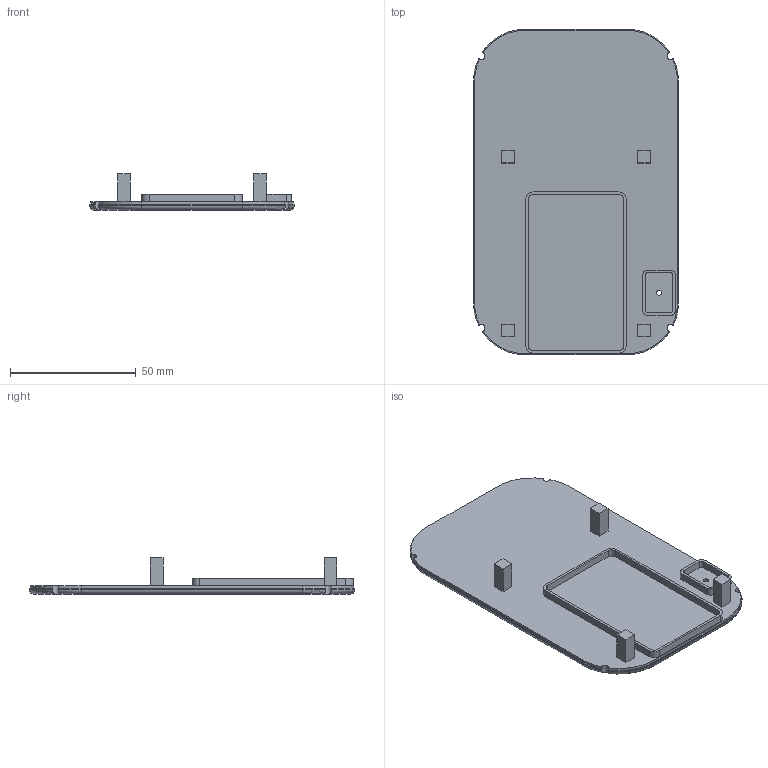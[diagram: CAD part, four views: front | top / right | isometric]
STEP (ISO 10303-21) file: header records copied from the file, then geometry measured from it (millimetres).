
FILE_DESCRIPTION(('Open CASCADE Model'),'2;1');
FILE_NAME('Open CASCADE Shape Model','2026-09-02T15:45:51',('Author'),( 'Open CASCADE'),'Open CASCADE STEP processor 7.7','Open CASCADE 7.7' ,'Unknown');
FILE_SCHEMA(('AUTOMOTIVE_DESIGN { 1 0 10303 214 1 1 1 1 }'));
Length unit declared in the file: millimetre
Products named in the file (1): Open CASCADE STEP translator 7.7 2
Bounding box: 81.4 x 129.4 x 14.5 mm (x, y, z)
Volume: 35900.9 mm3; surface area: 23740.5 mm2
Topology: 1 solids, 1 shells, 99 faces, 259 edges, 170 vertices
Faces by surface type: plane 54, cylinder 41, torus 4
Full cylindrical faces by diameter (mm): 2 x1
Entity records: 8036 total; most frequent: CARTESIAN_POINT 2927, DIRECTION 943, LINE 525, VECTOR 525, ORIENTED_EDGE 518, PCURVE 518, DEFINITIONAL_REPRESENTATION 518, EDGE_CURVE 259
